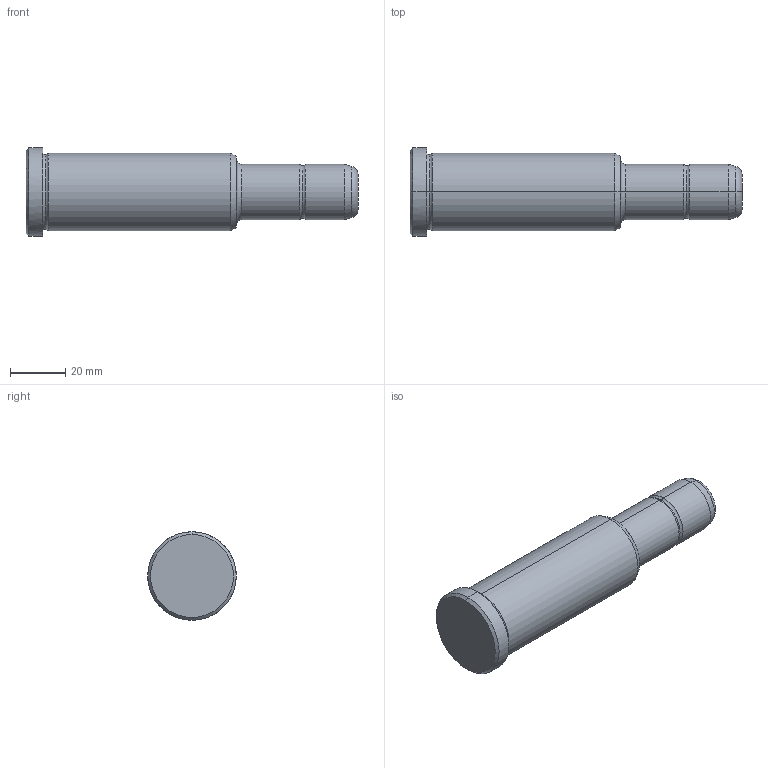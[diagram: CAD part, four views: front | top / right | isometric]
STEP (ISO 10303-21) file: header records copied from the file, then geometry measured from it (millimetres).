
FILE_DESCRIPTION(('CATIA V5 STEP Exchange'),'2;1');
FILE_NAME('C:\Users\Utente\Desktop\IO LAVORO\3D X SITO CF\X SITO\PLASTICA\351\351-20X76X120.stp','2021-08-27T13:11:30+00:00',('none'),('none'),'CATIA Version 5 Release 20 GA (IN-10)','CATIA V5 STEP AP203','none');
FILE_SCHEMA(('CONFIG_CONTROL_DESIGN'));
Length unit declared in the file: millimetre
Products named in the file (1): 351-20X76X120
Bounding box: 120 x 32 x 32 mm (x, y, z)
Volume: 61301.9 mm3; surface area: 10852.7 mm2
Topology: 1 solids, 1 shells, 30 faces, 86 edges, 60 vertices
Faces by surface type: torus 12, cylinder 8, cone 6, plane 4
Entity records: 1112 total; most frequent: CARTESIAN_POINT 289, ORIENTED_EDGE 172, DIRECTION 138, AXIS2_PLACEMENT_3D 95, EDGE_CURVE 86, CIRCLE 64, VERTEX_POINT 60, EDGE_LOOP 32
